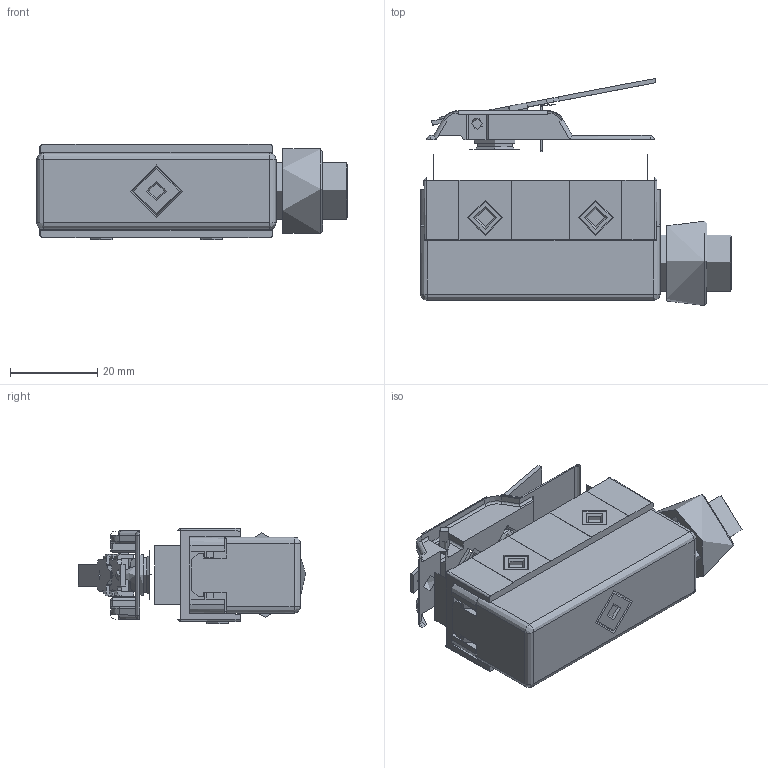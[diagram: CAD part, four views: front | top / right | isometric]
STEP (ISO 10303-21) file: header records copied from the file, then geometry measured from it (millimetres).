
FILE_DESCRIPTION((''),'2; 1');
FILE_NAME('','2026-03-27T16:31:49',(''),(''),'CST STEP Exporter V1.0','Unknown','');
FILE_SCHEMA(('CONFIG_CONTROL_DESIGN'));
Length unit declared in the file: metre
Assembly tree (14 placements, depth 2):
  (unnamed)
    (unnamed)
    (unnamed)
    (unnamed)
    (unnamed)
    (unnamed)
    (unnamed)
    (unnamed)
    (unnamed)
    (unnamed)
    (unnamed)
    (unnamed)
    (unnamed)
    (unnamed)
    (unnamed)
Bounding box: 71.33 x 52.15 x 21.9 mm (x, y, z)
Topology: 0 solids, 39 shells, 338 faces, 928 edges, 603 vertices
Faces by surface type: plane 167, cylinder 122, torus 24, sphere 17, cone 7, bspline 1
Full cylindrical faces by diameter (mm): 1 x12, 2 x5, 2.5 x1, 2.6 x3, 3.5 x1, 3.9 x1, 4 x1, 4.2 x2, 5 x2, 5.2 x2, 5.7 x1, 6 x1, 7.5 x2, 8 x5, 8.2 x1, 9.3 x1, 13 x2, 16 x1, 19.4 x1
Entity records: 14450 total; most frequent: CARTESIAN_POINT 2936, DIRECTION 1780, ORIENTED_EDGE 1591, EDGE_CURVE 894, AXIS2_PLACEMENT_3D 638, VERTEX_POINT 613, VECTOR 504, LINE 504
